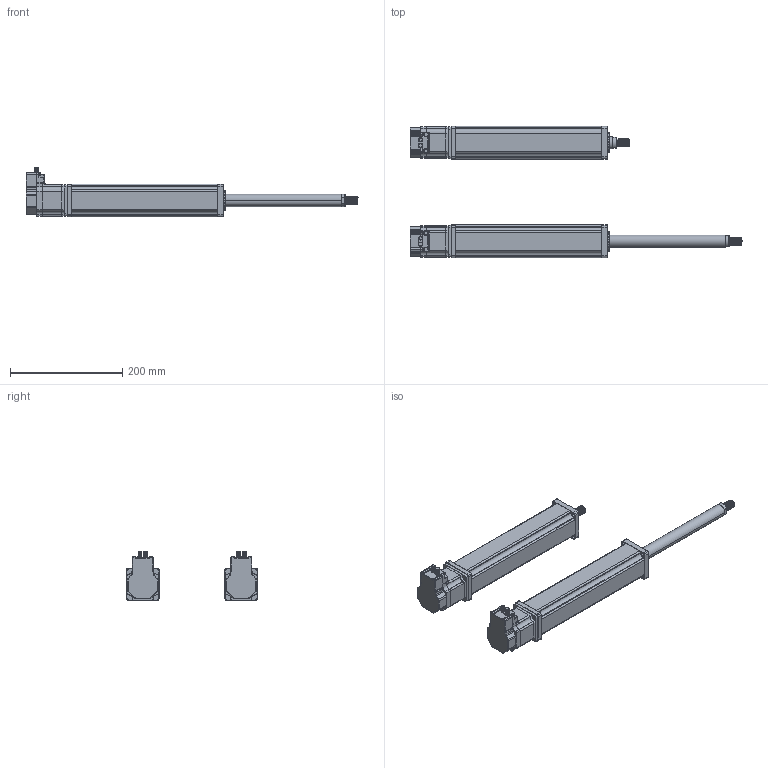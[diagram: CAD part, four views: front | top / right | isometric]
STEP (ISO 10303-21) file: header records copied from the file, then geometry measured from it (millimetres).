
FILE_DESCRIPTION(('STEP AP214'),'1');
FILE_NAME('\Tsurumi-main\3d_dad2\Servo_Motor\tmp0.STEP',' ',(' '),(' '),'XStep 1.0',' ',' ');
FILE_SCHEMA(('automotive_design'));
Length unit declared in the file: millimetre
Bounding box: 590.49 x 233.23 x 88.1 mm (x, y, z)
Volume: 2203548.6 mm3; surface area: 292066.9 mm2
Topology: 48 solids, 48 shells, 1828 faces, 5014 edges, 3286 vertices
Faces by surface type: plane 1250, cylinder 470, bspline 60, torus 36, sphere 8, cone 4
Entity records: 112259 total; most frequent: CARTESIAN_POINT 49708, ORIENTED_EDGE 9996, DIRECTION 9460, EDGE_CURVE 4998, LINE 3900, VECTOR 3900, VERTEX_POINT 3286, AXIS2_PLACEMENT_3D 2780
